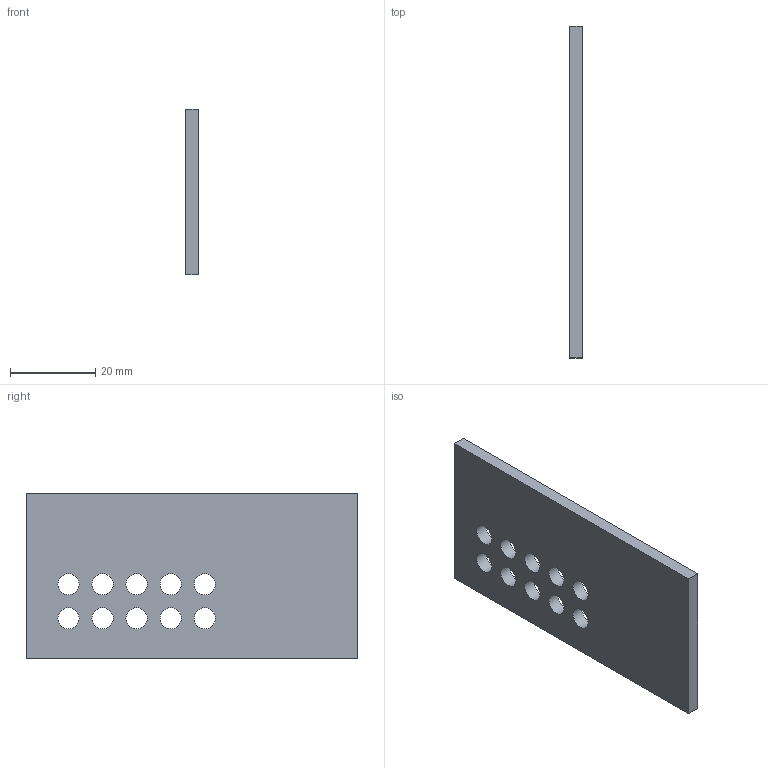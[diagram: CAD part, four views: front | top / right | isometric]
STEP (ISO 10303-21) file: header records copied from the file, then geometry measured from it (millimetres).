
FILE_DESCRIPTION(('Open CASCADE Model'),'2;1');
FILE_NAME('Open CASCADE Shape Model','2026-08-29T07:31:46',('Author'),( 'Open CASCADE'),'Open CASCADE STEP processor 7.9','build123d', 'Unknown');
FILE_SCHEMA(('AUTOMOTIVE_DESIGN { 1 0 10303 214 1 1 1 1 }'));
Length unit declared in the file: millimetre
Products named in the file (2): =>[0:1:1:2]; COMPOUND
Assembly tree (1 placements, depth 2):
  =>[0:1:1:2]
    COMPOUND
Bounding box: 3 x 77.9 x 38.76 mm (x, y, z)
Volume: 8455 mm3; surface area: 6815.4 mm2
Topology: 1 solids, 1 shells, 16 faces, 42 edges, 28 vertices
Faces by surface type: cylinder 10, plane 6
Full cylindrical faces by diameter (mm): 5 x10
Entity records: 1120 total; most frequent: DIRECTION 182, CARTESIAN_POINT 172, LINE 86, VECTOR 86, ORIENTED_EDGE 84, PCURVE 84, DEFINITIONAL_REPRESENTATION 84, EDGE_CURVE 42
